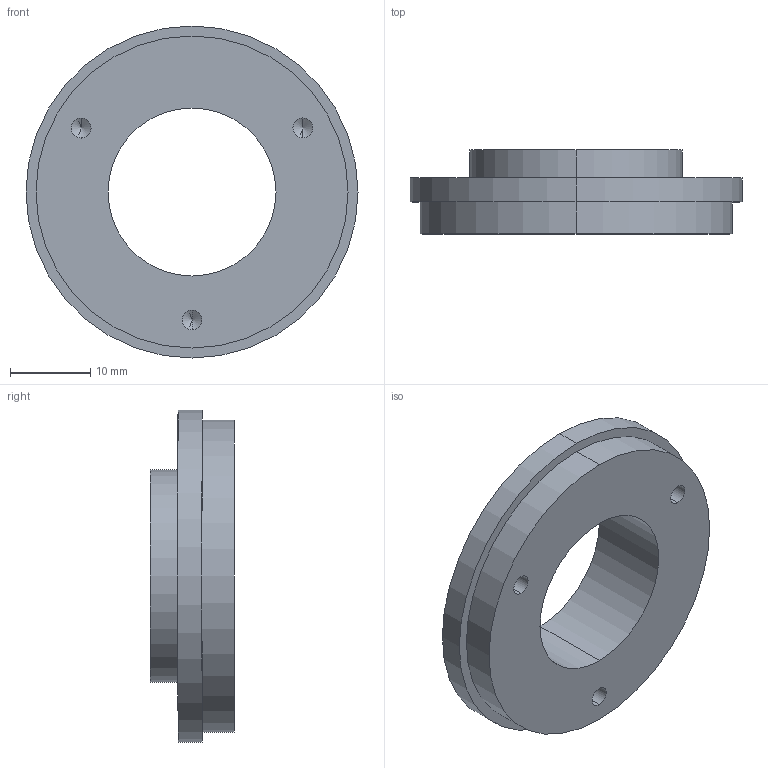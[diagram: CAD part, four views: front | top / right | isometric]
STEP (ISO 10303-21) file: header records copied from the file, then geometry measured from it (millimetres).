
FILE_DESCRIPTION (( 'STEP AP203' ), '1' );
FILE_NAME ('048217-C.STEP', '2025-05-07T10:29:14', ( '' ), ( '' ), 'SwSTEP 2.0', 'SolidWorks 2024', '' );
FILE_SCHEMA (( 'CONFIG_CONTROL_DESIGN' ));
Length unit declared in the file: millimetre
Products named in the file (1): 048217-C
Bounding box: 41.5 x 10.5 x 41.5 mm (x, y, z)
Volume: 7058 mm3; surface area: 3995.5 mm2
Topology: 1 solids, 1 shells, 135 faces, 357 edges, 233 vertices
Faces by surface type: plane 67, bspline 48, cylinder 14, cone 6
Entity records: 6630 total; most frequent: CARTESIAN_POINT 3536, ORIENTED_EDGE 702, DIRECTION 459, EDGE_CURVE 351, VERTEX_POINT 233, LINE 227, VECTOR 227, EDGE_LOOP 152
